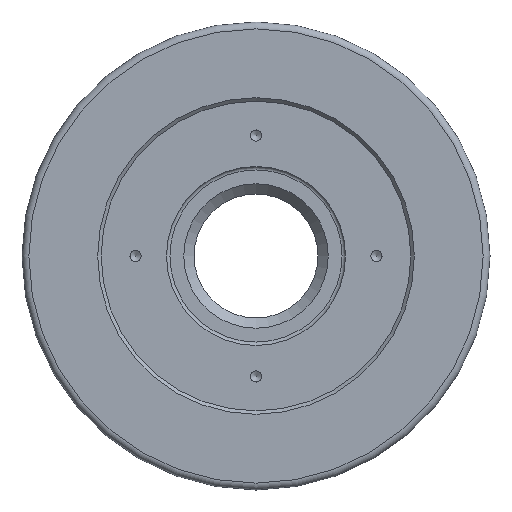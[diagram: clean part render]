
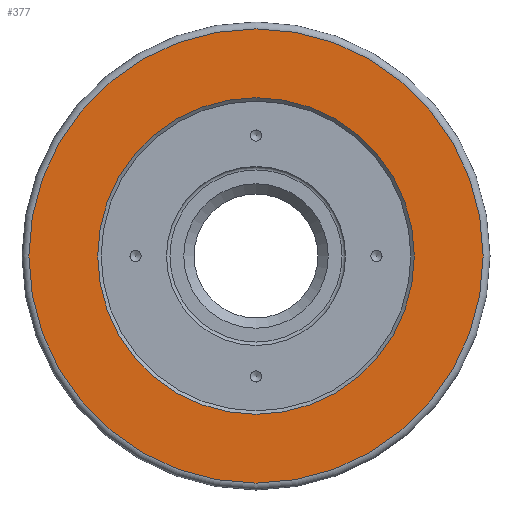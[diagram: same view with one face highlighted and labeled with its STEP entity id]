
A CAD part, left-side view. The second image highlights one B-rep face of the part: STEP entity #377.
In plain terms, the highlighted planar face has unit normal (-1, 0, 0).
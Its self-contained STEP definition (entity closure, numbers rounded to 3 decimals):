
#24=PLANE('',#418);
#44=FACE_BOUND('',#119,.T.);
#80=FACE_OUTER_BOUND('',#118,.T.);
#118=EDGE_LOOP('',(#298));
#119=EDGE_LOOP('',(#299));
#187=CIRCLE('',#415,46.);
#189=CIRCLE('',#419,66.);
#223=VERTEX_POINT('',#635);
#225=VERTEX_POINT('',#641);
#259=EDGE_CURVE('',#223,#223,#187,.T.);
#261=EDGE_CURVE('',#225,#225,#189,.T.);
#298=ORIENTED_EDGE('',*,*,#261,.F.);
#299=ORIENTED_EDGE('',*,*,#259,.F.);
#377=ADVANCED_FACE('',(#80,#44),#24,.F.);
#415=AXIS2_PLACEMENT_3D('',#636,#491,#492);
#418=AXIS2_PLACEMENT_3D('',#640,#497,#498);
#419=AXIS2_PLACEMENT_3D('',#642,#499,#500);
#491=DIRECTION('center_axis',(-1.,0.,0.));
#492=DIRECTION('ref_axis',(0.,0.,-1.));
#497=DIRECTION('center_axis',(1.,0.,0.));
#498=DIRECTION('ref_axis',(0.,0.,-1.));
#499=DIRECTION('center_axis',(1.,0.,0.));
#500=DIRECTION('ref_axis',(0.,-1.,0.));
#635=CARTESIAN_POINT('',(-12.5,0.,46.));
#636=CARTESIAN_POINT('Origin',(-12.5,0.,0.));
#640=CARTESIAN_POINT('Origin',(-12.5,0.,0.));
#641=CARTESIAN_POINT('',(-12.5,66.,0.));
#642=CARTESIAN_POINT('Origin',(-12.5,0.,0.));
